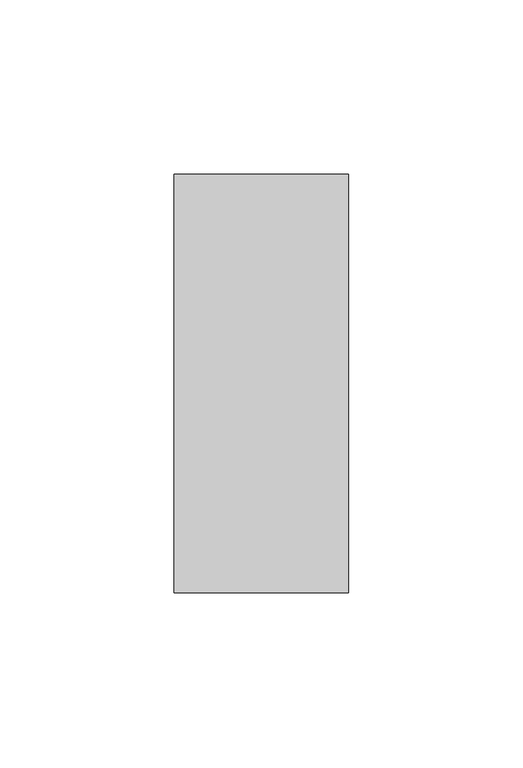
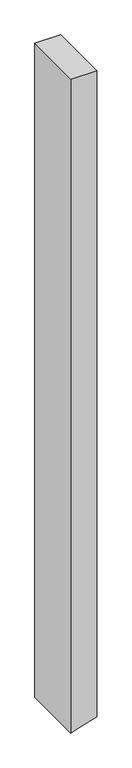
"""IFC4 building model written with IfcOpenShell, lengths in millimetres: member geometry, Прямоугольный импост : 50х120 мм."""

from ifc_helpers import new_model, si_unit, frame, origin, place, context, project, spatial, polyline, outline, extrude, source, transform, mapped, element, save


def member_6b16d565(model_context):
    return source(origin(), model_context, "Body", "SweptSolid", [
        extrude(outline(polyline([(0.0, 25.0), (0.0, -25.0), (-1336.560393, -25.0), (-1333.4576859, -15.4508497), (-1320.3144081, 25.0), (0.0, 25.0)])), frame((0.0, -60.0, 0.0), z_axis=(0.0, 1.0, 0.0), x_axis=(0.0, 0.0, 1.0)), (0.0, 0.0, 1.0), 120.0),
    ])


if __name__ == "__main__":
    model = new_model("IFC4")
    model_context = context("Model", 3, world=origin())
    ifc_project = project(units=[si_unit("LENGTHUNIT", "METRE", prefix="MILLI")], contexts=[model_context])
    site = spatial("IfcSite", under=ifc_project)
    building = spatial("IfcBuilding", under=site)
    placement = place(None, origin())
    member_shape = member_6b16d565(model_context)
    element("IfcMember", 1, ObjectType="Прямоугольный импост : 50х120 мм", at=placement, inside=building, context=model_context, shape_type="MappedRepresentation", body=[
        mapped(member_shape, transform((0.0, 0.0, 0.0), x_axis=(1.0, 0.0, 0.0), y_axis=(0.0, 1.0, 0.0), z_axis=(0.0, 0.0, 1.0))),
    ])
    save(model, "model.ifc")
